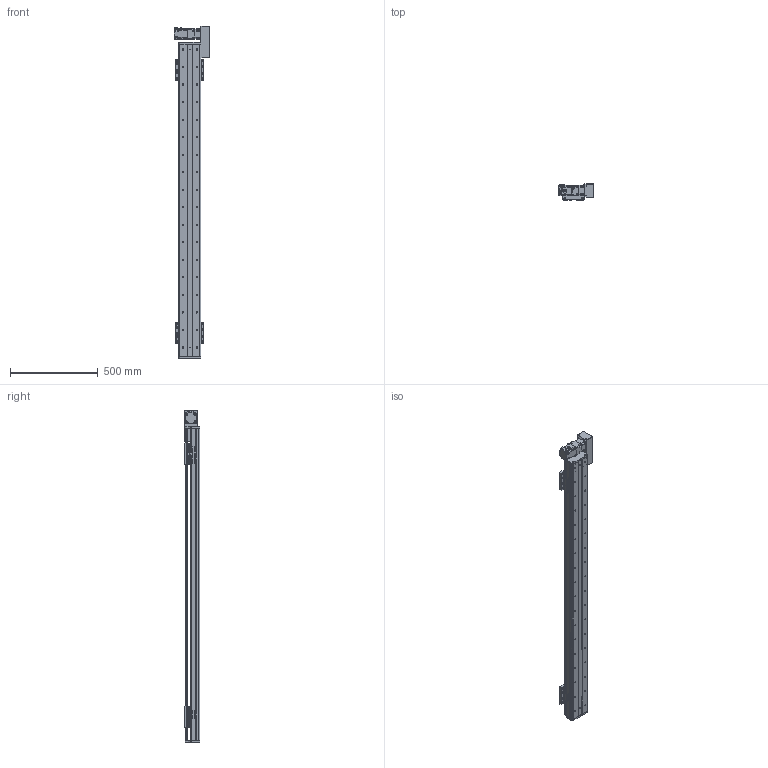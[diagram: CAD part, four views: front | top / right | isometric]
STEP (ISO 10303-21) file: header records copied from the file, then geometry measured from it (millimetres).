
FILE_DESCRIPTION(/* description */ (''),/* implementation_level */ '2;1');
FILE_NAME(/* name */ 'C:\Users\PC\Desktop\3D도면\STEP\STEP\DSB125-R2G-W1500-L.stp',/* time_stamp */ '2018-06-13T16:00:27+09:00',/* author */ ('PC'),/* organization */ (''),/* preprocessor_version */ 'ST-DEVELOPER v16.5',/* originating_system */ 'Autodesk Inventor 2017',/* authorisation */ '');
FILE_SCHEMA (('AUTOMOTIVE_DESIGN { 1 0 10303 214 3 1 1 }'));
Length unit declared in the file: millimetre
Products named in the file (12): DSB125-L2G-W1500-R_MIR; DSB125-BASE_MIR; DSB125-FRONT COVER_MIR; DSB125-REAR COVER_MIR; DSB125-UP COVER_MIR; DSB125-TABLE(MSB15S)_MIR; hg-kr23__MIR; ab0601-p0401200402_MIR; 13-BELT COVER_MIR; DSR125-SENSOR DOG_MIR; pm-y65_step_MIR; SENSOR BRACKET(EE-SX674A)_MIR
Assembly tree (16 placements, depth 2):
  DSB125-L2G-W1500-R_MIR
    DSB125-BASE_MIR
    DSB125-FRONT COVER_MIR
    DSB125-REAR COVER_MIR
    DSB125-UP COVER_MIR
    DSB125-TABLE(MSB15S)_MIR  x2
    hg-kr23__MIR
    ab0601-p0401200402_MIR
    13-BELT COVER_MIR
    DSR125-SENSOR DOG_MIR
    pm-y65_step_MIR  x3
    SENSOR BRACKET(EE-SX674A)_MIR  x3
Bounding box: 202.1 x 88 x 1894 mm (x, y, z)
Volume: 6222243.4 mm3; surface area: 1789510.2 mm2
Topology: 17 solids, 17 shells, 1683 faces, 4560 edges, 3002 vertices
Faces by surface type: plane 903, cylinder 642, cone 126, sphere 8, torus 4
Full cylindrical faces by diameter (mm): 2.459 x20, 3.242 x16, 3.5 x6, 4 x1, 4.134 x16, 4.2 x4, 4.3 x1, 4.5 x50, 4.917 x20, 5 x22, 5.3 x1, 5.5 x4, 5.6 x8, 5.8 x4, 5.9 x8, 6 x4, 6.6 x22, 6.647 x36, 7.5 x32, 8.5 x8, 8.7 x1, 11 x22, 14 x1, 16 x2, 17 x1, 20 x1, 47 x1, 50 x3
Entity records: 36473 total; most frequent: CARTESIAN_POINT 6555, DIRECTION 6202, ORIENTED_EDGE 5522, EDGE_CURVE 2761, AXIS2_PLACEMENT_3D 2289, VERTEX_POINT 1970, EDGE_LOOP 1717, LINE 1624
